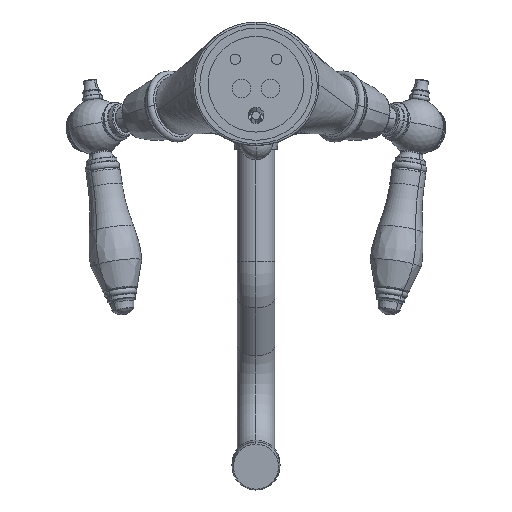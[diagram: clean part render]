
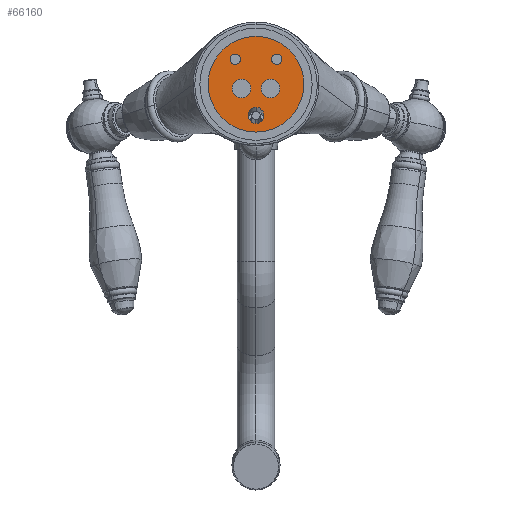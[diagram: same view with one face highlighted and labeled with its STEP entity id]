
A CAD part, front view. The second image highlights one B-rep face of the part: STEP entity #66160.
In plain terms, the highlighted planar face has unit normal (0, -1, 0).
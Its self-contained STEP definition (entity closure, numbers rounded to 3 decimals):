
#19942=CARTESIAN_POINT('',(0.,0.,0.));
#19943=DIRECTION('',(0.,1.,0.));
#19944=DIRECTION('',(-1.,0.,0.));
#19945=AXIS2_PLACEMENT_3D('',#19942,#19943,#19944);
#19947=CARTESIAN_POINT('',(0.,0.,0.));
#19948=DIRECTION('',(0.,1.,0.));
#19949=DIRECTION('',(1.,0.,0.));
#19950=AXIS2_PLACEMENT_3D('',#19947,#19948,#19949);
#19952=CARTESIAN_POINT('',(-7.,0.,-2.));
#19953=DIRECTION('',(0.,-1.,0.));
#19954=DIRECTION('',(-1.,0.,0.));
#19955=AXIS2_PLACEMENT_3D('',#19952,#19953,#19954);
#19957=CARTESIAN_POINT('',(-7.,0.,-2.));
#19958=DIRECTION('',(0.,-1.,0.));
#19959=DIRECTION('',(1.,0.,0.));
#19960=AXIS2_PLACEMENT_3D('',#19957,#19958,#19959);
#19962=CARTESIAN_POINT('',(7.,0.,-2.));
#19963=DIRECTION('',(0.,-1.,0.));
#19964=DIRECTION('',(-1.,0.,0.));
#19965=AXIS2_PLACEMENT_3D('',#19962,#19963,#19964);
#19967=CARTESIAN_POINT('',(7.,0.,-2.));
#19968=DIRECTION('',(0.,-1.,0.));
#19969=DIRECTION('',(1.,0.,0.));
#19970=AXIS2_PLACEMENT_3D('',#19967,#19968,#19969);
#19972=CARTESIAN_POINT('',(-10.,0.,12.));
#19973=DIRECTION('',(0.,-1.,0.));
#19974=DIRECTION('',(-1.,0.,0.));
#19975=AXIS2_PLACEMENT_3D('',#19972,#19973,#19974);
#19977=CARTESIAN_POINT('',(-10.,0.,12.));
#19978=DIRECTION('',(0.,-1.,0.));
#19979=DIRECTION('',(1.,0.,0.));
#19980=AXIS2_PLACEMENT_3D('',#19977,#19978,#19979);
#19982=CARTESIAN_POINT('',(10.,0.,12.));
#19983=DIRECTION('',(0.,-1.,0.));
#19984=DIRECTION('',(-1.,0.,0.));
#19985=AXIS2_PLACEMENT_3D('',#19982,#19983,#19984);
#19987=CARTESIAN_POINT('',(10.,0.,12.));
#19988=DIRECTION('',(0.,-1.,0.));
#19989=DIRECTION('',(1.,0.,0.));
#19990=AXIS2_PLACEMENT_3D('',#19987,#19988,#19989);
#19992=CARTESIAN_POINT('',(0.,0.,
-18.882));
#19993=CARTESIAN_POINT('',(0.221,0.,
-18.882));
#19994=CARTESIAN_POINT('',(0.679,0.,
-18.842));
#19995=CARTESIAN_POINT('',(1.385,0.,
-18.636));
#19996=CARTESIAN_POINT('',(2.064,0.,
-18.274));
#19997=CARTESIAN_POINT('',(2.671,0.,
-17.765));
#19998=CARTESIAN_POINT('',(3.162,0.,
-17.137));
#19999=CARTESIAN_POINT('',(3.512,0.,
-16.433));
#20000=CARTESIAN_POINT('',(3.678,0.,
-15.825));
#20001=CARTESIAN_POINT('',(3.74,0.,
-15.347));
#20002=CARTESIAN_POINT('',(3.755,0.,
-15.));
#20003=CARTESIAN_POINT('',(3.74,0.,
-14.653));
#20004=CARTESIAN_POINT('',(3.678,0.,
-14.175));
#20005=CARTESIAN_POINT('',(3.512,0.,
-13.567));
#20006=CARTESIAN_POINT('',(3.162,0.,
-12.863));
#20007=CARTESIAN_POINT('',(2.671,0.,
-12.235));
#20008=CARTESIAN_POINT('',(2.064,0.,
-11.726));
#20009=CARTESIAN_POINT('',(1.385,0.,
-11.364));
#20010=CARTESIAN_POINT('',(0.679,0.,
-11.158));
#20011=CARTESIAN_POINT('',(0.221,0.,
-11.118));
#20012=CARTESIAN_POINT('',(0.,0.,
-11.118));
#20014=CARTESIAN_POINT('',(0.,0.,
-11.118));
#20015=CARTESIAN_POINT('',(-0.221,0.,
-11.118));
#20016=CARTESIAN_POINT('',(-0.679,0.,
-11.158));
#20017=CARTESIAN_POINT('',(-1.385,0.,
-11.364));
#20018=CARTESIAN_POINT('',(-2.064,0.,
-11.726));
#20019=CARTESIAN_POINT('',(-2.671,0.,
-12.235));
#20020=CARTESIAN_POINT('',(-3.162,0.,
-12.863));
#20021=CARTESIAN_POINT('',(-3.512,0.,
-13.567));
#20022=CARTESIAN_POINT('',(-3.678,0.,
-14.175));
#20023=CARTESIAN_POINT('',(-3.74,0.,
-14.653));
#20024=CARTESIAN_POINT('',(-3.755,0.,
-15.));
#20025=CARTESIAN_POINT('',(-3.74,0.,
-15.347));
#20026=CARTESIAN_POINT('',(-3.678,0.,
-15.825));
#20027=CARTESIAN_POINT('',(-3.512,0.,
-16.433));
#20028=CARTESIAN_POINT('',(-3.162,0.,
-17.137));
#20029=CARTESIAN_POINT('',(-2.671,0.,
-17.765));
#20030=CARTESIAN_POINT('',(-2.064,0.,
-18.274));
#20031=CARTESIAN_POINT('',(-1.385,0.,
-18.636));
#20032=CARTESIAN_POINT('',(-0.679,0.,
-18.842));
#20033=CARTESIAN_POINT('',(-0.221,0.,
-18.882));
#20034=CARTESIAN_POINT('',(0.,0.,
-18.882));
#23267=CARTESIAN_POINT('',(-23.,0.,0.));
#23268=CARTESIAN_POINT('',(23.,0.,0.));
#23269=VERTEX_POINT('',#23267);
#23270=VERTEX_POINT('',#23268);
#23283=CARTESIAN_POINT('',(-11.5,0.,-2.));
#23284=CARTESIAN_POINT('',(-2.5,0.,-2.));
#23285=VERTEX_POINT('',#23283);
#23286=VERTEX_POINT('',#23284);
#23287=CARTESIAN_POINT('',(2.5,0.,-2.));
#23288=CARTESIAN_POINT('',(11.5,0.,-2.));
#23289=VERTEX_POINT('',#23287);
#23290=VERTEX_POINT('',#23288);
#23299=CARTESIAN_POINT('',(-12.5,0.,12.));
#23300=CARTESIAN_POINT('',(-7.5,0.,12.));
#23301=VERTEX_POINT('',#23299);
#23302=VERTEX_POINT('',#23300);
#23303=CARTESIAN_POINT('',(7.5,0.,12.));
#23304=CARTESIAN_POINT('',(12.5,0.,12.));
#23305=VERTEX_POINT('',#23303);
#23306=VERTEX_POINT('',#23304);
#23317=VERTEX_POINT('',#19992);
#23318=VERTEX_POINT('',#20012);
#66120=CARTESIAN_POINT('',(0.,0.,
-0.004));
#66121=DIRECTION('',(0.,-1.,0.));
#66122=DIRECTION('',(1.,0.,0.));
#66123=AXIS2_PLACEMENT_3D('',#66120,#66121,#66122);
#66124=PLANE('',#66123);
#66126=ORIENTED_EDGE('',*,*,#66125,.T.);
#66128=ORIENTED_EDGE('',*,*,#66127,.T.);
#66129=EDGE_LOOP('',(#66126,#66128));
#66130=FACE_OUTER_BOUND('',#66129,.F.);
#66132=ORIENTED_EDGE('',*,*,#66131,.T.);
#66134=ORIENTED_EDGE('',*,*,#66133,.T.);
#66135=EDGE_LOOP('',(#66132,#66134));
#66136=FACE_BOUND('',#66135,.F.);
#66138=ORIENTED_EDGE('',*,*,#66137,.T.);
#66140=ORIENTED_EDGE('',*,*,#66139,.T.);
#66141=EDGE_LOOP('',(#66138,#66140));
#66142=FACE_BOUND('',#66141,.F.);
#66144=ORIENTED_EDGE('',*,*,#66143,.T.);
#66146=ORIENTED_EDGE('',*,*,#66145,.T.);
#66147=EDGE_LOOP('',(#66144,#66146));
#66148=FACE_BOUND('',#66147,.F.);
#66150=ORIENTED_EDGE('',*,*,#66149,.T.);
#66152=ORIENTED_EDGE('',*,*,#66151,.T.);
#66153=EDGE_LOOP('',(#66150,#66152));
#66154=FACE_BOUND('',#66153,.F.);
#66156=ORIENTED_EDGE('',*,*,#66155,.T.);
#66157=ORIENTED_EDGE('',*,*,#66110,.T.);
#66158=EDGE_LOOP('',(#66156,#66157));
#66159=FACE_BOUND('',#66158,.F.);
#66160=ADVANCED_FACE('',(#66130,#66136,#66142,#66148,#66154,#66159),#66124,.T.);
#19946=CIRCLE('',#19945,23.);
#19951=CIRCLE('',#19950,23.);
#19956=CIRCLE('',#19955,4.5);
#19961=CIRCLE('',#19960,4.5);
#19966=CIRCLE('',#19965,4.5);
#19971=CIRCLE('',#19970,4.5);
#19976=CIRCLE('',#19975,2.5);
#19981=CIRCLE('',#19980,2.5);
#19986=CIRCLE('',#19985,2.5);
#19991=CIRCLE('',#19990,2.5);
#20013=B_SPLINE_CURVE_WITH_KNOTS('',3,(#19992,#19993,#19994,#19995,#19996,
#19997,#19998,#19999,#20000,#20001,#20002,#20003,#20004,#20005,#20006,#20007,
#20008,#20009,#20010,#20011,#20012),.UNSPECIFIED.,.F.,.F.,(4,1,1,1,1,1,1,1,1,1,
1,1,1,1,1,1,1,1,4),(0.,0.063,0.125,0.188,0.25,0.313,0.375,
0.438,0.469,0.5,0.531,0.563,0.625,0.688,0.75,0.813,
0.875,0.938,1.),.UNSPECIFIED.);
#20035=B_SPLINE_CURVE_WITH_KNOTS('',3,(#20014,#20015,#20016,#20017,#20018,
#20019,#20020,#20021,#20022,#20023,#20024,#20025,#20026,#20027,#20028,#20029,
#20030,#20031,#20032,#20033,#20034),.UNSPECIFIED.,.F.,.F.,(4,1,1,1,1,1,1,1,1,1,
1,1,1,1,1,1,1,1,4),(0.,0.063,0.125,0.188,0.25,0.313,0.375,
0.438,0.469,0.5,0.531,0.563,0.625,0.688,0.75,0.813,
0.875,0.938,1.),.UNSPECIFIED.);
#66110=EDGE_CURVE('',#23318,#23317,#20035,.T.);
#66125=EDGE_CURVE('',#23269,#23270,#19946,.T.);
#66127=EDGE_CURVE('',#23270,#23269,#19951,.T.);
#66131=EDGE_CURVE('',#23285,#23286,#19956,.T.);
#66133=EDGE_CURVE('',#23286,#23285,#19961,.T.);
#66137=EDGE_CURVE('',#23289,#23290,#19966,.T.);
#66139=EDGE_CURVE('',#23290,#23289,#19971,.T.);
#66143=EDGE_CURVE('',#23301,#23302,#19976,.T.);
#66145=EDGE_CURVE('',#23302,#23301,#19981,.T.);
#66149=EDGE_CURVE('',#23305,#23306,#19986,.T.);
#66151=EDGE_CURVE('',#23306,#23305,#19991,.T.);
#66155=EDGE_CURVE('',#23317,#23318,#20013,.T.);
